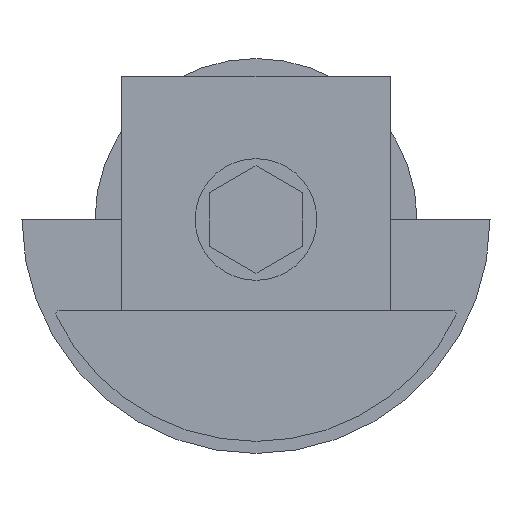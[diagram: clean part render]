
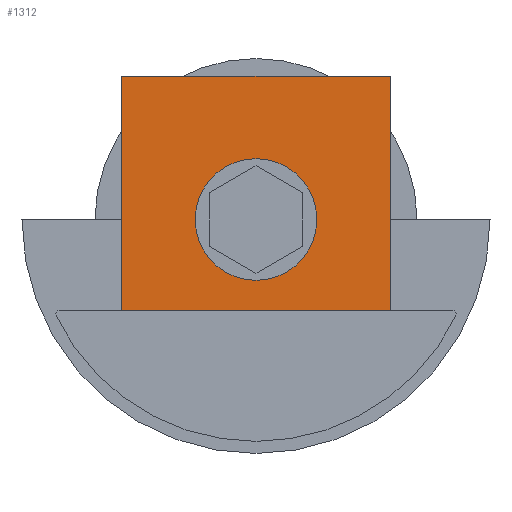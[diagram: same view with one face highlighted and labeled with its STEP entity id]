
A CAD part, left-side view. The second image highlights one B-rep face of the part: STEP entity #1312.
In plain terms, the highlighted planar face has unit normal (-1, 0, 0).
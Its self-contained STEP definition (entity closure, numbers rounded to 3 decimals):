
#91 = EDGE_CURVE ( 'NONE', #1400, #1033, #1404, .T. ) ;
#106 = CIRCLE ( 'NONE', #1435, 4. ) ;
#114 = CARTESIAN_POINT ( 'NONE',  ( -346., -32.7, 28.7 ) ) ;
#137 = ORIENTED_EDGE ( 'NONE', *, *, #155, .F. ) ;
#149 = ORIENTED_EDGE ( 'NONE', *, *, #1071, .F. ) ;
#155 = EDGE_CURVE ( 'NONE', #1819, #1400, #1106, .T. ) ;
#245 = CARTESIAN_POINT ( 'NONE',  ( -346., -13.95, 52.7 ) ) ;
#250 = CARTESIAN_POINT ( 'NONE',  ( -346., -32.7, 32.7 ) ) ;
#327 = PLANE ( 'NONE',  #1165 ) ;
#340 = CARTESIAN_POINT ( 'NONE',  ( -346., -51.45, 52.7 ) ) ;
#430 = VECTOR ( 'NONE', #944, 1000. ) ;
#516 = CARTESIAN_POINT ( 'NONE',  ( -346., -60.696, 20. ) ) ;
#568 = DIRECTION ( 'NONE',  ( 0., 1., 0. ) ) ;
#569 = EDGE_LOOP ( 'NONE', ( #851, #1540, #1965, #137 ) ) ;
#587 = DIRECTION ( 'NONE',  ( 1., 0., 0. ) ) ;
#657 = VERTEX_POINT ( 'NONE', #245 ) ;
#754 = CIRCLE ( 'NONE', #1035, 4. ) ;
#789 = CARTESIAN_POINT ( 'NONE',  ( -346., -13.95, 20. ) ) ;
#851 = ORIENTED_EDGE ( 'NONE', *, *, #1159, .T. ) ;
#861 = LINE ( 'NONE', #1454, #999 ) ;
#880 = CARTESIAN_POINT ( 'NONE',  ( -346., -32.7, 36.7 ) ) ;
#918 = ORIENTED_EDGE ( 'NONE', *, *, #1702, .F. ) ;
#938 = CARTESIAN_POINT ( 'NONE',  ( -346., -60.696, 52.7 ) ) ;
#944 = DIRECTION ( 'NONE',  ( 0., 0., 1. ) ) ;
#952 = CARTESIAN_POINT ( 'NONE',  ( -346., -51.45, 52.7 ) ) ;
#999 = VECTOR ( 'NONE', #568, 1000. ) ;
#1022 = DIRECTION ( 'NONE',  ( 0., -1., 0. ) ) ;
#1033 = VERTEX_POINT ( 'NONE', #1906 ) ;
#1035 = AXIS2_PLACEMENT_3D ( 'NONE', #1801, #1176, #1050 ) ;
#1050 = DIRECTION ( 'NONE',  ( 0., 0., -1. ) ) ;
#1071 = EDGE_CURVE ( 'NONE', #1417, #1720, #106, .T. ) ;
#1106 = LINE ( 'NONE', #952, #1694 ) ;
#1159 = EDGE_CURVE ( 'NONE', #1819, #657, #861, .T. ) ;
#1165 = AXIS2_PLACEMENT_3D ( 'NONE', #938, #587, #1022 ) ;
#1176 = DIRECTION ( 'NONE',  ( -1., 0., 0. ) ) ;
#1237 = LINE ( 'NONE', #789, #430 ) ;
#1312 = ADVANCED_FACE ( 'NONE', ( #1692, #1388 ), #327, .F. ) ;
#1388 = FACE_OUTER_BOUND ( 'NONE', #569, .T. ) ;
#1400 = VERTEX_POINT ( 'NONE', #1931 ) ;
#1404 = LINE ( 'NONE', #516, #1758 ) ;
#1417 = VERTEX_POINT ( 'NONE', #880 ) ;
#1435 = AXIS2_PLACEMENT_3D ( 'NONE', #250, #1798, #1943 ) ;
#1454 = CARTESIAN_POINT ( 'NONE',  ( -346., -60.696, 52.7 ) ) ;
#1525 = EDGE_LOOP ( 'NONE', ( #918, #149 ) ) ;
#1540 = ORIENTED_EDGE ( 'NONE', *, *, #1549, .F. ) ;
#1549 = EDGE_CURVE ( 'NONE', #1033, #657, #1237, .T. ) ;
#1589 = DIRECTION ( 'NONE',  ( 0., 1., 0. ) ) ;
#1599 = DIRECTION ( 'NONE',  ( 0., 0., -1. ) ) ;
#1692 = FACE_BOUND ( 'NONE', #1525, .T. ) ;
#1694 = VECTOR ( 'NONE', #1599, 1000. ) ;
#1702 = EDGE_CURVE ( 'NONE', #1720, #1417, #754, .T. ) ;
#1720 = VERTEX_POINT ( 'NONE', #114 ) ;
#1758 = VECTOR ( 'NONE', #1589, 1000. ) ;
#1798 = DIRECTION ( 'NONE',  ( -1., 0., 0. ) ) ;
#1801 = CARTESIAN_POINT ( 'NONE',  ( -346., -32.7, 32.7 ) ) ;
#1819 = VERTEX_POINT ( 'NONE', #340 ) ;
#1906 = CARTESIAN_POINT ( 'NONE',  ( -346., -13.95, 20. ) ) ;
#1931 = CARTESIAN_POINT ( 'NONE',  ( -346., -51.45, 20. ) ) ;
#1943 = DIRECTION ( 'NONE',  ( 0., 0., -1. ) ) ;
#1965 = ORIENTED_EDGE ( 'NONE', *, *, #91, .F. ) ;
